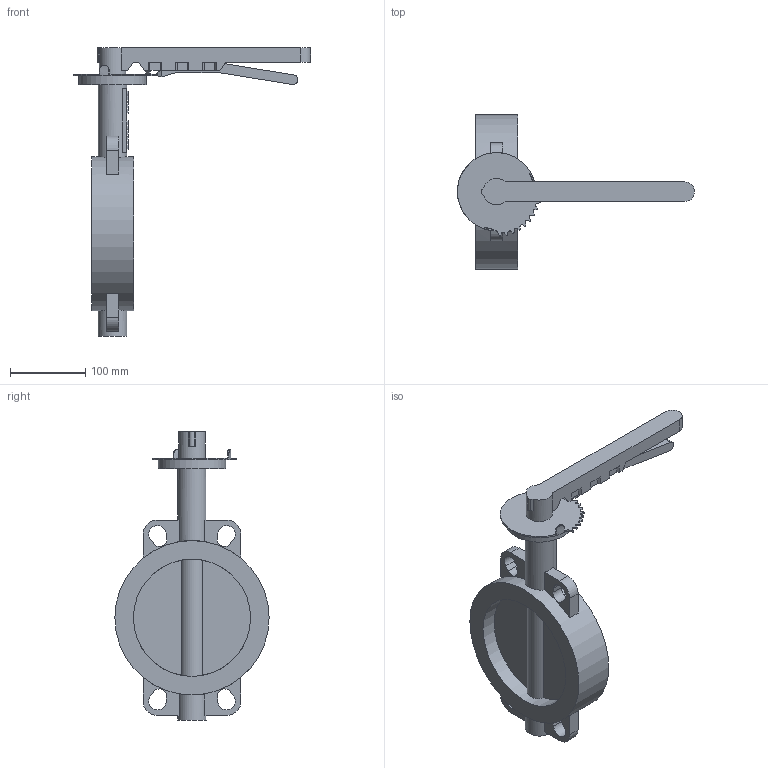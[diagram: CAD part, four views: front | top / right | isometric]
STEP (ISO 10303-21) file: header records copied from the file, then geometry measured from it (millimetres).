
FILE_DESCRIPTION(('STEP AP203'), '1');
FILE_NAME('Çàòâîð 017W.ZS DN150 PN10_16 ðóêîÿòêà', '', ('UNSPECIFIED'), ('UNSPECIFIED'), 'ASCON STEP Converter 1.6', 'ASCON Math Kernel', '');
FILE_SCHEMA(('CONFIG_CONTROL_DESIGN'));
Length unit declared in the file: millimetre
Bounding box: 315 x 205 x 383 mm (x, y, z)
Volume: 222768.4 mm3; surface area: 228156.6 mm2
Topology: 1 solids, 2 shells, 867 faces, 2583 edges, 1665 vertices
Faces by surface type: cylinder 607, plane 260
Full cylindrical faces by diameter (mm): 10 x4, 18.9 x1, 35 x1, 38 x2, 55 x1, 90 x1, 155.7 x2, 205 x1
Entity records: 37443 total; most frequent: CARTESIAN_POINT 6035, DIRECTION 5569, ORIENTED_EDGE 5064, EDGE_CURVE 2571, AXIS2_PLACEMENT_3D 2158, VERTEX_POINT 1665, CIRCLE 1290, LINE 1253
